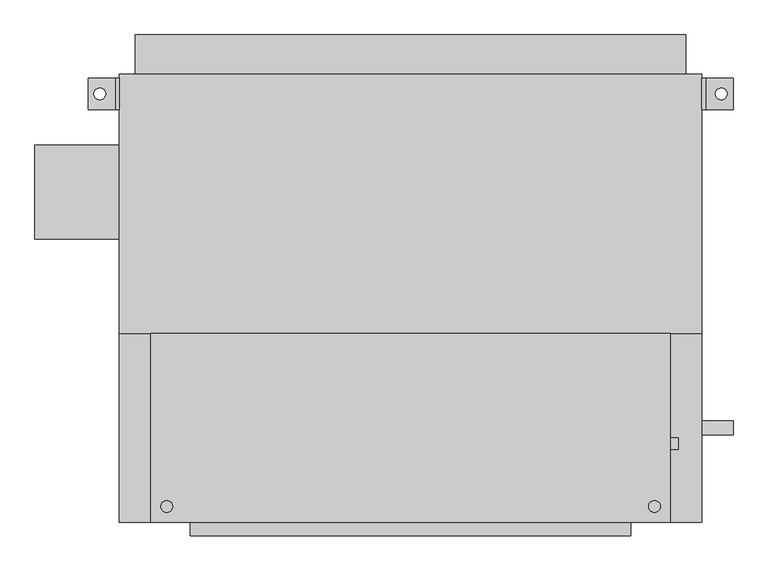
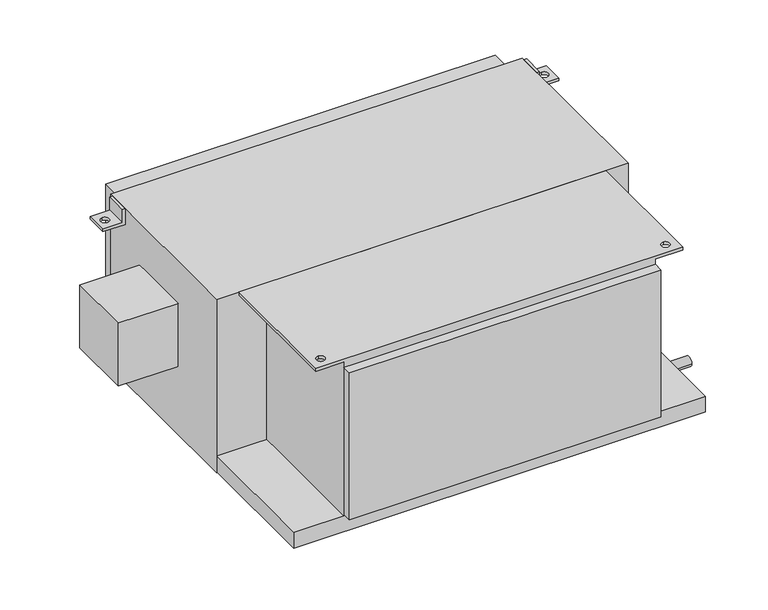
"""IFC4 building model written with IfcOpenShell, lengths in millimetres: proxy geometry, Concealed_High_Capacity_Horizontal_Fan_Coil_Unit_With_Plenum_-_42DCA_-_CARRIER_-_2-Pipe_Cool-EHeat_RH_2022 : Size 12 - 277v/60Hz/1Ph - 6 Row 9.0kW."""

from ifc_helpers import new_model, si_unit, point, frame, frame_2d, origin, place, context, project, spatial, polyline, circle_curve, trimmed, segment, composite_curve, outline, extrude, source, transform, mapped, element, save
from ifc_brep_helpers import plane_surface, revolved_surface, advanced_brep


def mechanical_equipment_06df331c(model_context):
    return source(origin(), model_context, "Body", "SolidModel", [
        advanced_brep(
        [(-317.5, 327.025, -38.1), (-368.3, 327.025, -38.1), (-368.3, 327.025, -31.75), (-323.85, 327.025, -31.75), (-323.85, 327.025, 0.0), (-317.5, 327.025, 0.0), (-317.5, 276.225, -38.1), (-317.5, 276.225, 0.0), (-323.85, 276.225, 0.0), (-323.85, 276.225, -31.75), (-368.3, 276.225, -31.75), (-368.3, 276.225, -38.1), (-349.25, 292.1, -38.1), (-349.25, 311.15, -38.1), (-349.25, 311.15, -31.75), (-349.25, 292.1, -31.75)],
        [
            (0, 1),
            (1, 2),
            (2, 3),
            (3, 4),
            (4, 5),
            (5, 0),
            (6, 7),
            (7, 8),
            (8, 9),
            (9, 10),
            (10, 11),
            (11, 6),
            (0, 6),
            (11, 1),
            (12, 13, circle_curve(frame((-349.25, 301.625, -38.1), z_axis=(0.0, 0.0, 1.0), x_axis=(0.0, -1.0, 0.0)), 9.525)),
            (13, 12, circle_curve(frame((-349.25, 301.625, -38.1), z_axis=(0.0, 0.0, 1.0), x_axis=(0.0, -1.0, 0.0)), 9.525)),
            (10, 2),
            (9, 3),
            (14, 15, circle_curve(frame((-349.25, 301.625, -31.75), z_axis=(0.0, 0.0, -1.0), x_axis=(0.0, -1.0, 0.0)), 9.525)),
            (15, 14, circle_curve(frame((-349.25, 301.625, -31.75), z_axis=(0.0, 0.0, -1.0), x_axis=(0.0, -1.0, 0.0)), 9.525)),
            (8, 4),
            (7, 5),
            (14, 13),
            (12, 15),
        ],
        [
            plane_surface(frame((-317.5, 327.025, -38.1), z_axis=(0.0, 1.0, 0.0), x_axis=(-1.0, 0.0, 0.0))),
            plane_surface(frame((-317.5, 276.225, -38.1), z_axis=(0.0, -1.0, 0.0), x_axis=(1.0, 0.0, 0.0))),
            plane_surface(frame((-317.5, 327.025, -38.1), z_axis=(0.0, 0.0, -1.0), x_axis=(0.0, -1.0, 0.0))),
            plane_surface(frame((-368.3, 327.025, -38.1), z_axis=(-1.0, 0.0, 0.0), x_axis=(0.0, -1.0, 0.0))),
            plane_surface(frame((-368.3, 327.025, -31.75), z_axis=(0.0, 0.0, 1.0), x_axis=(0.0, -1.0, 0.0))),
            plane_surface(frame((-323.85, 327.025, -31.75), z_axis=(-1.0, 0.0, 0.0), x_axis=(0.0, -1.0, 0.0))),
            plane_surface(frame((-323.85, 327.025, 0.0), z_axis=(0.0, 0.0, 1.0), x_axis=(0.0, -1.0, 0.0))),
            plane_surface(frame((-317.5, 327.025, 0.0), z_axis=(1.0, 0.0, 0.0), x_axis=(0.0, -1.0, 0.0))),
            revolved_surface(polyline([(-349.25, 292.1, -38.1), (-349.25, 292.1, -31.75)]), (-349.25, 301.625, -31.75), (0.0, 0.0, -1.0)),
        ],
        [
            (0, [[1, 2, 3, 4, 5, 6]]),
            (1, [[7, 8, 9, 10, 11, 12]]),
            (2, [[-1, 13, -12, 14], [15, 16]]),
            (3, [[-2, -14, -11, 17]]),
            (4, [[-3, -17, -10, 18], [19, 20]]),
            (5, [[-4, -18, -9, 21]]),
            (6, [[-5, -21, -8, 22]]),
            (7, [[-6, -22, -7, -13]]),
            (8, [[23, -15, 24, -19]]),
            (8, [[-23, -20, -24, -16]]),
        ],
    ),
        advanced_brep(
        [(622.3, 327.025, -38.1), (622.3, 327.025, 0.0), (628.65, 327.025, 0.0), (628.65, 327.025, -31.75), (673.1, 327.025, -31.75), (673.1, 327.025, -38.1), (622.3, 276.225, -38.1), (673.1, 276.225, -38.1), (673.1, 276.225, -31.75), (628.65, 276.225, -31.75), (628.65, 276.225, 0.0), (622.3, 276.225, 0.0), (654.05, 311.15, -31.75), (654.05, 292.1, -31.75), (654.05, 292.1, -38.1), (654.05, 311.15, -38.1)],
        [
            (0, 1),
            (1, 2),
            (2, 3),
            (3, 4),
            (4, 5),
            (5, 0),
            (6, 7),
            (7, 8),
            (8, 9),
            (9, 10),
            (10, 11),
            (11, 6),
            (0, 6),
            (11, 1),
            (10, 2),
            (9, 3),
            (8, 4),
            (12, 13, circle_curve(frame((654.05, 301.625, -31.75), z_axis=(0.0, 0.0, -1.0), x_axis=(0.0, -1.0, 0.0)), 9.525)),
            (13, 12, circle_curve(frame((654.05, 301.625, -31.75), z_axis=(0.0, 0.0, -1.0), x_axis=(0.0, -1.0, 0.0)), 9.525)),
            (7, 5),
            (14, 15, circle_curve(frame((654.05, 301.625, -38.1), z_axis=(0.0, 0.0, 1.0), x_axis=(0.0, -1.0, 0.0)), 9.525)),
            (15, 14, circle_curve(frame((654.05, 301.625, -38.1), z_axis=(0.0, 0.0, 1.0), x_axis=(0.0, -1.0, 0.0)), 9.525)),
            (12, 15),
            (14, 13),
        ],
        [
            plane_surface(frame((-317.5, 327.025, -38.1), z_axis=(0.0, 1.0, 0.0), x_axis=(-1.0, 0.0, 0.0))),
            plane_surface(frame((-317.5, 276.225, -38.1), z_axis=(0.0, -1.0, 0.0), x_axis=(1.0, 0.0, 0.0))),
            plane_surface(frame((622.3, 327.025, -38.1), z_axis=(-1.0, 0.0, 0.0), x_axis=(0.0, -1.0, 0.0))),
            plane_surface(frame((622.3, 327.025, 0.0), z_axis=(0.0, 0.0, 1.0), x_axis=(0.0, -1.0, 0.0))),
            plane_surface(frame((628.65, 327.025, 0.0), z_axis=(1.0, 0.0, 0.0), x_axis=(0.0, -1.0, 0.0))),
            plane_surface(frame((628.65, 327.025, -31.75), z_axis=(0.0, 0.0, 1.0), x_axis=(0.0, -1.0, 0.0))),
            plane_surface(frame((673.1, 327.025, -31.75), z_axis=(1.0, 0.0, 0.0), x_axis=(0.0, -1.0, 0.0))),
            plane_surface(frame((673.1, 327.025, -38.1), z_axis=(0.0, 0.0, -1.0), x_axis=(0.0, -1.0, 0.0))),
            revolved_surface(polyline([(654.05, 292.1, -38.1), (654.05, 292.1, -31.75)]), (654.05, 301.625, -31.75), (0.0, 0.0, -1.0)),
        ],
        [
            (0, [[1, 2, 3, 4, 5, 6]]),
            (1, [[7, 8, 9, 10, 11, 12]]),
            (2, [[-1, 13, -12, 14]]),
            (3, [[-2, -14, -11, 15]]),
            (4, [[-3, -15, -10, 16]]),
            (5, [[-4, -16, -9, 17], [18, 19]]),
            (6, [[-5, -17, -8, 20]]),
            (7, [[-6, -20, -7, -13], [21, 22]]),
            (8, [[23, -21, 24, -18]]),
            (8, [[-23, -19, -24, -22]]),
        ],
    ),
        advanced_brep(
        [(508.0, -85.725, -377.825), (508.0, -390.525, -377.825), (-203.2, -390.525, -377.825), (-203.2, -85.725, -377.825), (-203.2, -390.525, -6.35), (-203.2, -85.725, -6.35), (508.0, -85.725, -6.35), (508.0, -390.525, -6.35), (-266.7, -85.725, -6.35), (-266.7, -390.525, -6.35), (-241.3, -355.6, -6.35), (-241.3, -374.65, -6.35), (571.5, -85.725, -6.35), (571.5, -390.525, -6.35), (546.1, -355.6, -6.35), (546.1, -374.65, -6.35), (-266.7, -85.725, 0.0), (-266.7, -390.525, 0.0), (571.5, -390.525, 0.0), (571.5, -85.725, 0.0), (-241.3, -374.65, 0.0), (-241.3, -355.6, 0.0), (546.1, -374.65, 0.0), (546.1, -355.6, 0.0)],
        [
            (0, 1),
            (1, 2),
            (2, 3),
            (3, 0),
            (2, 4),
            (4, 5),
            (5, 3),
            (0, 6),
            (6, 7),
            (7, 1),
            (8, 5),
            (4, 9),
            (9, 8),
            (10, 11, circle_curve(frame((-241.3, -365.125, -6.35), z_axis=(0.0, 0.0, 1.0), x_axis=(0.0, 1.0, 0.0)), 9.525)),
            (11, 10, circle_curve(frame((-241.3, -365.125, -6.35), z_axis=(0.0, 0.0, 1.0), x_axis=(0.0, 1.0, 0.0)), 9.525)),
            (12, 13),
            (13, 7),
            (6, 12),
            (14, 15, circle_curve(frame((546.1, -365.125, -6.35), z_axis=(0.0, 0.0, 1.0), x_axis=(0.0, 1.0, 0.0)), 9.525)),
            (15, 14, circle_curve(frame((546.1, -365.125, -6.35), z_axis=(0.0, 0.0, 1.0), x_axis=(0.0, 1.0, 0.0)), 9.525)),
            (16, 17),
            (17, 18),
            (18, 19),
            (19, 16),
            (20, 21, circle_curve(frame((-241.3, -365.125, 0.0), z_axis=(0.0, 0.0, -1.0), x_axis=(0.0, 1.0, 0.0)), 9.525)),
            (21, 20, circle_curve(frame((-241.3, -365.125, 0.0), z_axis=(0.0, 0.0, -1.0), x_axis=(0.0, 1.0, 0.0)), 9.525)),
            (22, 23, circle_curve(frame((546.1, -365.125, 0.0), z_axis=(0.0, 0.0, -1.0), x_axis=(0.0, 1.0, 0.0)), 9.525)),
            (23, 22, circle_curve(frame((546.1, -365.125, 0.0), z_axis=(0.0, 0.0, -1.0), x_axis=(0.0, 1.0, 0.0)), 9.525)),
            (9, 17),
            (16, 8),
            (13, 18),
            (19, 12),
            (20, 11),
            (10, 21),
            (22, 15),
            (14, 23),
        ],
        [
            plane_surface(frame((-203.2, -85.725, -377.825), z_axis=(0.0, 0.0, -1.0), x_axis=(1.0, 0.0, 0.0))),
            plane_surface(frame((-203.2, -85.725, 0.0), z_axis=(-1.0, 0.0, 0.0), x_axis=(0.0, 0.0, -1.0))),
            plane_surface(frame((508.0, -390.525, 0.0), z_axis=(1.0, 0.0, 0.0), x_axis=(0.0, 0.0, -1.0))),
            plane_surface(frame((-266.7, -85.725, -6.35), z_axis=(0.0, 0.0, -1.0), x_axis=(0.0, 1.0, 0.0))),
            plane_surface(frame((-266.7, -85.725, 0.0), z_axis=(0.0, 0.0, 1.0), x_axis=(0.0, -1.0, 0.0))),
            plane_surface(frame((-266.7, -85.725, 0.0), z_axis=(-1.0, 0.0, 0.0), x_axis=(0.0, 0.0, -1.0))),
            plane_surface(frame((-266.7, -390.525, 0.0), z_axis=(0.0, -1.0, 0.0), x_axis=(0.0, 0.0, -1.0))),
            plane_surface(frame((-203.2, -85.725, 0.0), z_axis=(0.0, 1.0, 0.0), x_axis=(0.0, 0.0, -1.0))),
            plane_surface(frame((571.5, -390.525, 0.0), z_axis=(1.0, 0.0, 0.0), x_axis=(0.0, 0.0, -1.0))),
            revolved_surface(polyline([(-241.3, -355.6, -6.35), (-241.3, -355.6, 0.0)]), (-241.3, -365.125, 0.0), (0.0, 0.0, -1.0)),
            revolved_surface(polyline([(546.1, -355.6, -6.35), (546.1, -355.6, 0.0)]), (546.1, -365.125, 0.0), (0.0, 0.0, -1.0)),
        ],
        [
            (0, [[1, 2, 3, 4]]),
            (1, [[-3, 5, 6, 7]]),
            (2, [[-1, 8, 9, 10]]),
            (3, [[11, -6, 12, 13], [14, 15]]),
            (3, [[16, 17, -9, 18], [19, 20]]),
            (4, [[21, 22, 23, 24], [25, 26], [27, 28]]),
            (5, [[-13, 29, -21, 30]]),
            (6, [[-12, -5, -2, -10, -17, 31, -22, -29]]),
            (7, [[-11, -30, -24, 32, -18, -8, -4, -7]]),
            (8, [[-16, -32, -23, -31]]),
            (9, [[33, -14, 34, -25]]),
            (9, [[-33, -26, -34, -15]]),
            (10, [[35, -19, 36, -27]]),
            (10, [[-35, -28, -36, -20]]),
        ],
    ),
        extrude(outline(polyline([(-292.1, 396.875), (596.9, 396.875), (596.9, 333.375), (-292.1, 333.375), (-292.1, 396.875)])), frame((0.0, 0.0, -381.0), z_axis=(0.0, 0.0, 1.0), x_axis=(1.0, 0.0, 0.0)), (0.0, 0.0, 1.0), 358.775),
        extrude(outline(composite_curve([segment(trimmed(circle_curve(frame_2d((-263.525, -76.2)), 9.525), [point((-254.0, -76.2))], [point((-273.05, -76.2))], False, "CARTESIAN"), True, "CONTINUOUS"), segment(trimmed(circle_curve(frame_2d((-263.525, -76.2)), 9.525), [point((-273.05, -76.2))], [point((-254.0, -76.2))], False, "CARTESIAN"), True, "CONTINUOUS")], self_intersect=False)), frame((508.0, 0.0, 0.0), z_axis=(1.0, 0.0, 0.0), x_axis=(0.0, 1.0, 0.0)), (0.0, 0.0, 1.0), 76.2),
        extrude(outline(composite_curve([segment(trimmed(circle_curve(frame_2d((-263.525, -301.625)), 9.525), [point((-254.0, -301.625))], [point((-273.05, -301.625))], False, "CARTESIAN"), True, "CONTINUOUS"), segment(trimmed(circle_curve(frame_2d((-263.525, -301.625)), 9.525), [point((-273.05, -301.625))], [point((-254.0, -301.625))], False, "CARTESIAN"), True, "CONTINUOUS")], self_intersect=False)), frame((508.0, 0.0, 0.0), z_axis=(1.0, 0.0, 0.0), x_axis=(0.0, 1.0, 0.0)), (0.0, 0.0, 1.0), 76.2),
        extrude(outline(composite_curve([segment(trimmed(circle_curve(frame_2d((-238.125, -403.225)), 11.1125), [point((-227.0125, -403.225))], [point((-249.2375, -403.225))], False, "CARTESIAN"), True, "CONTINUOUS"), segment(trimmed(circle_curve(frame_2d((-238.125, -403.225)), 11.1125), [point((-249.2375, -403.225))], [point((-227.0125, -403.225))], False, "CARTESIAN"), True, "CONTINUOUS")], self_intersect=False)), frame((622.3, 0.0, 0.0), z_axis=(1.0, 0.0, 0.0), x_axis=(0.0, 1.0, 0.0)), (0.0, 0.0, 1.0), 50.8),
        extrude(outline(polyline([(-454.025, 66.675), (-454.025, 219.075), (-317.5, 219.075), (-317.5, 66.675), (-454.025, 66.675)])), frame((0.0, 0.0, -254.0), z_axis=(0.0, 0.0, 1.0), x_axis=(1.0, 0.0, 0.0)), (0.0, 0.0, 1.0), 152.4),
        extrude(outline(polyline([(508.0, -412.75), (-203.2, -412.75), (-203.2, -390.525), (508.0, -390.525), (508.0, -412.75)])), frame((0.0, 0.0, -374.65), z_axis=(0.0, 0.0, 1.0), x_axis=(1.0, 0.0, 0.0)), (0.0, 0.0, 1.0), 355.6),
        extrude(outline(polyline([(622.3, -85.725), (-317.5, -85.725), (-317.5, 333.375), (622.3, 333.375), (622.3, -85.725)])), frame((0.0, 0.0, -419.1), z_axis=(0.0, 0.0, 1.0), x_axis=(1.0, 0.0, 0.0)), (0.0, 0.0, 1.0), 419.1),
        extrude(outline(polyline([(622.3, -85.725), (622.3, -390.525), (-317.5, -390.525), (-317.5, -85.725), (622.3, -85.725)])), frame((0.0, 0.0, -415.925), z_axis=(0.0, 0.0, 1.0), x_axis=(1.0, 0.0, 0.0)), (0.0, 0.0, 1.0), 38.1),
    ])


if __name__ == "__main__":
    model = new_model("IFC4")
    model_context = context("Model", 3, world=origin())
    ifc_project = project(units=[si_unit("LENGTHUNIT", "METRE", prefix="MILLI")], contexts=[model_context])
    site = spatial("IfcSite", under=ifc_project)
    building = spatial("IfcBuilding", under=site)
    placement = place(None, origin())
    mechanical_equipment_shape = mechanical_equipment_06df331c(model_context)
    element("IfcBuildingElementProxy", 1, Name="Concealed_High_Capacity_Horizontal_Fan_Coil_Unit_With_Plenum_-_42DCA_-_CARRIER_-_2-Pipe_Cool-EHeat_RH_2022 : Size 12 - 277v/60Hz/1Ph - 6 Row 9.0kW", ObjectType="Concealed_High_Capacity_Horizontal_Fan_Coil_Unit_With_Plenum_-_42DCA_-_CARRIER_-_2-Pipe_Cool-EHeat_RH_2022 : Size 12 - 277v/60Hz/1Ph - 6 Row 9.0kW", at=placement, inside=building, context=model_context, shape_type="MappedRepresentation", body=[
        mapped(mechanical_equipment_shape, transform((0.0, 0.0, 0.0), x_axis=(1.0, 0.0, 0.0), y_axis=(0.0, 1.0, 0.0), z_axis=(0.0, 0.0, 1.0))),
    ])
    save(model, "model.ifc")
